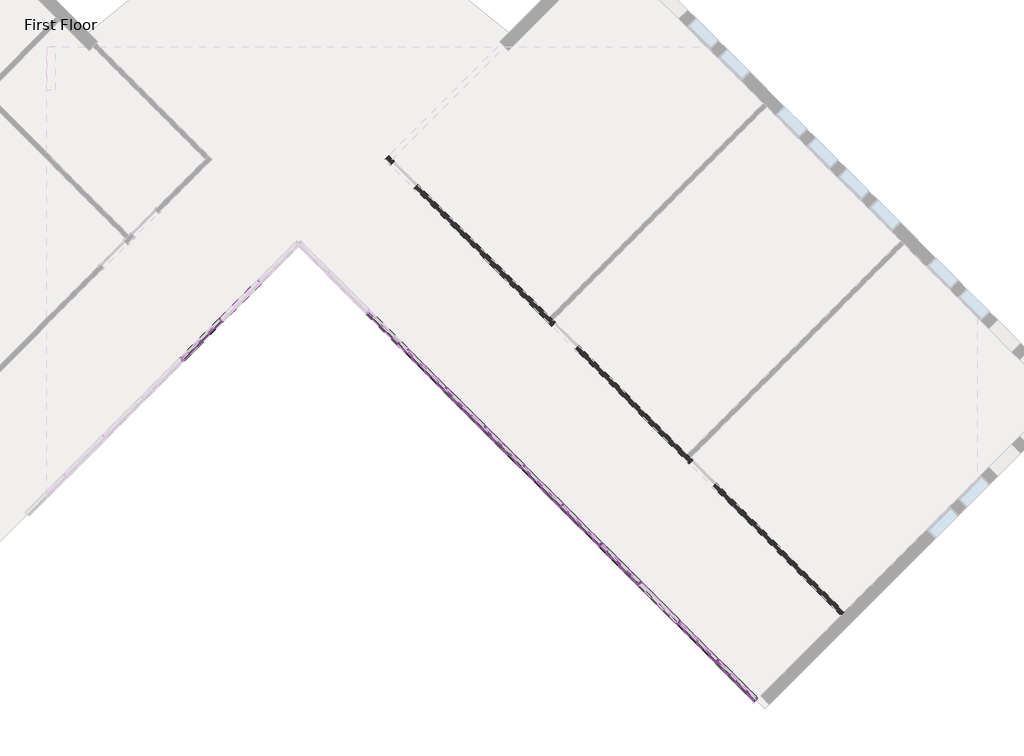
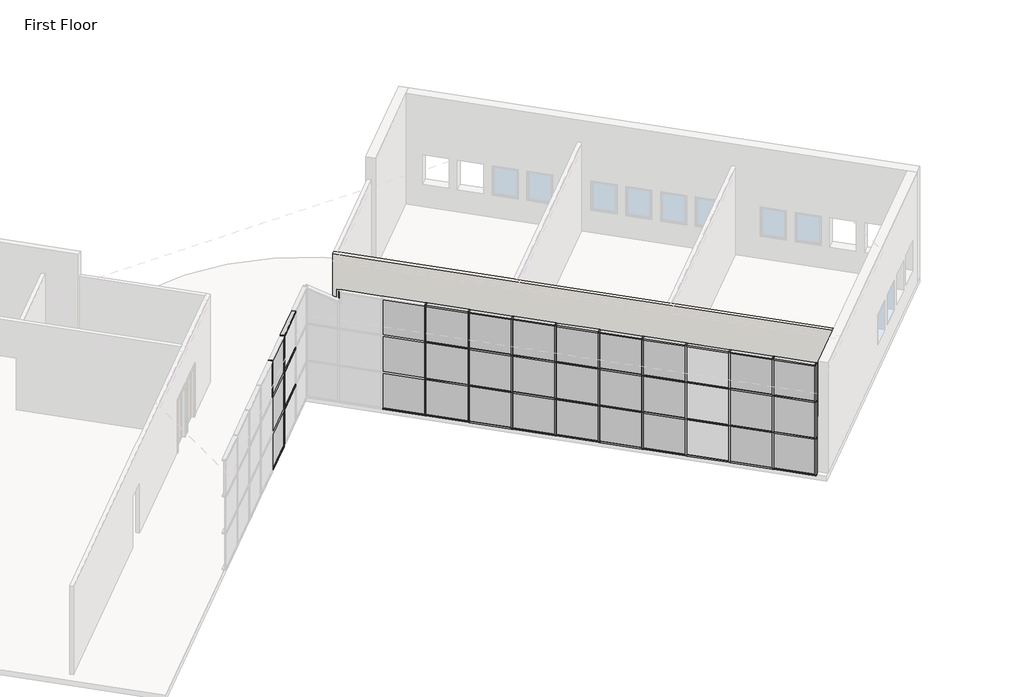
# One storey, part 2 of 4: 75 members, 30 plates, 1 wall.
"""IFC4 building model written with IfcOpenShell, lengths in millimetres."""

from ifc_helpers import new_model, si_unit, origin, place, context, project, spatial, faceted_brep, transform, mapped, element, save
from components import rectangular_mullion_50_x_150mm_20f04808, rectangular_mullion_50_x_150mm_40297ad3, rectangular_mullion_50_x_150mm_25842354, rectangular_mullion_50_x_150mm_f494fff1, rectangular_mullion_50_x_150mm_5da8f88f, rectangular_mullion_50_x_150mm_4d330a12, system_panel_glazed_3c3c243d, system_panel_glazed_a417ca2b, system_panel_glazed_437d720c, system_panel_glazed_7c4ff273, system_panel_solid_49e066f7, system_panel_solid_a570f427

model = new_model("IFC4")

# Units and contexts
model_context = context("Model", 3, world=origin())
ifc_project = project(units=[si_unit("LENGTHUNIT", "METRE", prefix="MILLI")], contexts=[model_context])

# Site, building, storey
site = spatial("IfcSite", under=ifc_project)
building = spatial("IfcBuilding", under=site)
storey = spatial("IfcBuildingStorey", under=building, Name="First Floor", Elevation=0.0)

# Members
placement = place(None, origin())
rectangular_mullion_50_x_150mm_shape = rectangular_mullion_50_x_150mm_20f04808(model_context)
element("IfcMember", 1, ObjectType="Rectangular Mullion : 50 x 150mm", at=placement, inside=storey, context=model_context, shape_type="MappedRepresentation", body=[
    mapped(rectangular_mullion_50_x_150mm_shape, transform((11047.480406, -10654.0737858, 0.0), x_axis=(0.0, 0.0, -1.0), y_axis=(0.7071067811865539, 0.7071067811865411, 0.0), z_axis=(0.7071067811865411, -0.7071067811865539, 0.0))),
])
rectangular_mullion_50_x_150mm_2_shape = rectangular_mullion_50_x_150mm_40297ad3(model_context)
element("IfcMember", 2, ObjectType="Rectangular Mullion : 50 x 150mm", at=placement, inside=storey, context=model_context, shape_type="MappedRepresentation", body=[
    mapped(rectangular_mullion_50_x_150mm_2_shape, transform((-3756.5071652, -160.6091532, 0.0), x_axis=(-0.7071067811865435, -0.7071067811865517, 0.0), y_axis=(-0.7071067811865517, 0.7071067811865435, 0.0), z_axis=(0.0, 0.0, -1.0))),
])
element("IfcMember", 3, ObjectType="Rectangular Mullion : 50 x 150mm", at=placement, inside=storey, context=model_context, shape_type="MappedRepresentation", body=[
    mapped(rectangular_mullion_50_x_150mm_2_shape, transform((10005.2050103, -9611.7983901, 0.0), x_axis=(-0.7071067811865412, 0.7071067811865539, 0.0), y_axis=(0.7071067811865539, 0.7071067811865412, 0.0), z_axis=(0.0, 0.0, -1.0))),
])
element("IfcMember", 4, ObjectType="Rectangular Mullion : 50 x 150mm", at=placement, inside=storey, context=model_context, shape_type="MappedRepresentation", body=[
    mapped(rectangular_mullion_50_x_150mm_2_shape, transform((8927.5742757, -8534.1676556, 0.0), x_axis=(-0.7071067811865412, 0.7071067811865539, 0.0), y_axis=(0.7071067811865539, 0.7071067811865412, 0.0), z_axis=(0.0, 0.0, -1.0))),
])
element("IfcMember", 5, ObjectType="Rectangular Mullion : 50 x 150mm", at=placement, inside=storey, context=model_context, shape_type="MappedRepresentation", body=[
    mapped(rectangular_mullion_50_x_150mm_2_shape, transform((7849.9435412, -7456.536921, 0.0), x_axis=(-0.7071067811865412, 0.7071067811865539, 0.0), y_axis=(0.7071067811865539, 0.7071067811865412, 0.0), z_axis=(0.0, 0.0, -1.0))),
])
element("IfcMember", 6, ObjectType="Rectangular Mullion : 50 x 150mm", at=placement, inside=storey, context=model_context, shape_type="MappedRepresentation", body=[
    mapped(rectangular_mullion_50_x_150mm_2_shape, transform((6772.3128067, -6378.9061865, 0.0), x_axis=(-0.7071067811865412, 0.7071067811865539, 0.0), y_axis=(0.7071067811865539, 0.7071067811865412, 0.0), z_axis=(0.0, 0.0, -1.0))),
])
element("IfcMember", 7, ObjectType="Rectangular Mullion : 50 x 150mm", at=placement, inside=storey, context=model_context, shape_type="MappedRepresentation", body=[
    mapped(rectangular_mullion_50_x_150mm_2_shape, transform((5694.6820722, -5301.275452, 0.0), x_axis=(-0.7071067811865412, 0.7071067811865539, 0.0), y_axis=(0.7071067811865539, 0.7071067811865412, 0.0), z_axis=(0.0, 0.0, -1.0))),
])
element("IfcMember", 8, ObjectType="Rectangular Mullion : 50 x 150mm", at=placement, inside=storey, context=model_context, shape_type="MappedRepresentation", body=[
    mapped(rectangular_mullion_50_x_150mm_2_shape, transform((4617.0513376, -4223.6447175, 0.0), x_axis=(-0.7071067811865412, 0.7071067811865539, 0.0), y_axis=(0.7071067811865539, 0.7071067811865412, 0.0), z_axis=(0.0, 0.0, -1.0))),
])
element("IfcMember", 9, ObjectType="Rectangular Mullion : 50 x 150mm", at=placement, inside=storey, context=model_context, shape_type="MappedRepresentation", body=[
    mapped(rectangular_mullion_50_x_150mm_2_shape, transform((3539.4206031, -3146.0139829, 0.0), x_axis=(-0.7071067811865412, 0.7071067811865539, 0.0), y_axis=(0.7071067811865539, 0.7071067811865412, 0.0), z_axis=(0.0, 0.0, -1.0))),
])
element("IfcMember", 10, ObjectType="Rectangular Mullion : 50 x 150mm", at=placement, inside=storey, context=model_context, shape_type="MappedRepresentation", body=[
    mapped(rectangular_mullion_50_x_150mm_2_shape, transform((2461.7898686, -2068.3832484, 0.0), x_axis=(-0.7071067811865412, 0.7071067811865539, 0.0), y_axis=(0.7071067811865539, 0.7071067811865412, 0.0), z_axis=(0.0, 0.0, -1.0))),
])
element("IfcMember", 11, ObjectType="Rectangular Mullion : 50 x 150mm", at=placement, inside=storey, context=model_context, shape_type="MappedRepresentation", body=[
    mapped(rectangular_mullion_50_x_150mm_2_shape, transform((1384.159134, -990.7525139, 0.0), x_axis=(-0.7071067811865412, 0.7071067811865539, 0.0), y_axis=(0.7071067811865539, 0.7071067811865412, 0.0), z_axis=(0.0, 0.0, -1.0))),
])
rectangular_mullion_50_x_150mm_3_shape = rectangular_mullion_50_x_150mm_25842354(model_context)
element("IfcMember", 12, ObjectType="Rectangular Mullion : 50 x 150mm", at=placement, inside=storey, context=model_context, shape_type="MappedRepresentation", body=[
    mapped(rectangular_mullion_50_x_150mm_3_shape, transform((10022.8826798, -9629.4760596, 1524.0), x_axis=(0.0, 0.0, 1.0), y_axis=(0.7071067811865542, 0.7071067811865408, 0.0), z_axis=(-0.7071067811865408, 0.7071067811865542, 0.0))),
])
element("IfcMember", 13, ObjectType="Rectangular Mullion : 50 x 150mm", at=placement, inside=storey, context=model_context, shape_type="MappedRepresentation", body=[
    mapped(rectangular_mullion_50_x_150mm_3_shape, transform((10022.8826798, -9629.4760596, 3048.0), x_axis=(0.0, 0.0, 1.0), y_axis=(0.7071067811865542, 0.7071067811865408, 0.0), z_axis=(-0.7071067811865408, 0.7071067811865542, 0.0))),
])
rectangular_mullion_50_x_150mm_4_shape = rectangular_mullion_50_x_150mm_f494fff1(model_context)
element("IfcMember", 14, ObjectType="Rectangular Mullion : 50 x 150mm", at=placement, inside=storey, context=model_context, shape_type="MappedRepresentation", body=[
    mapped(rectangular_mullion_50_x_150mm_4_shape, transform((-3738.8294957, -142.9314837, 1524.0), x_axis=(0.0, 0.0, 1.0), y_axis=(-0.7071067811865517, 0.7071067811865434, 0.0), z_axis=(-0.7071067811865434, -0.7071067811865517, 0.0))),
])
element("IfcMember", 15, ObjectType="Rectangular Mullion : 50 x 150mm", at=placement, inside=storey, context=model_context, shape_type="MappedRepresentation", body=[
    mapped(rectangular_mullion_50_x_150mm_4_shape, transform((-3738.8294957, -142.9314837, 3048.0), x_axis=(0.0, 0.0, 1.0), y_axis=(-0.7071067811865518, 0.7071067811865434, 0.0), z_axis=(-0.7071067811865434, -0.7071067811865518, 0.0))),
])
element("IfcMember", 16, ObjectType="Rectangular Mullion : 50 x 150mm", at=placement, inside=storey, context=model_context, shape_type="MappedRepresentation", body=[
    mapped(rectangular_mullion_50_x_150mm_4_shape, transform((8945.2519453, -8551.8453251, 1524.0), x_axis=(0.0, 0.0, 1.0), y_axis=(0.7071067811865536, 0.7071067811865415, 0.0), z_axis=(-0.7071067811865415, 0.7071067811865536, 0.0))),
])
element("IfcMember", 17, ObjectType="Rectangular Mullion : 50 x 150mm", at=placement, inside=storey, context=model_context, shape_type="MappedRepresentation", body=[
    mapped(rectangular_mullion_50_x_150mm_4_shape, transform((7867.6212107, -7474.2145906, 1524.0), x_axis=(0.0, 0.0, 1.0), y_axis=(0.7071067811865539, 0.7071067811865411, 0.0), z_axis=(-0.7071067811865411, 0.7071067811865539, 0.0))),
])
element("IfcMember", 18, ObjectType="Rectangular Mullion : 50 x 150mm", at=placement, inside=storey, context=model_context, shape_type="MappedRepresentation", body=[
    mapped(rectangular_mullion_50_x_150mm_4_shape, transform((6789.9904762, -6396.5838561, 1524.0), x_axis=(0.0, 0.0, 1.0), y_axis=(0.7071067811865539, 0.7071067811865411, 0.0), z_axis=(-0.7071067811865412, 0.707106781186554, 0.0))),
])
element("IfcMember", 19, ObjectType="Rectangular Mullion : 50 x 150mm", at=placement, inside=storey, context=model_context, shape_type="MappedRepresentation", body=[
    mapped(rectangular_mullion_50_x_150mm_4_shape, transform((5712.3597417, -5318.9531215, 1524.0), x_axis=(0.0, 0.0, 1.0), y_axis=(0.7071067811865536, 0.7071067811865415, 0.0), z_axis=(-0.7071067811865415, 0.7071067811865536, 0.0))),
])
element("IfcMember", 20, ObjectType="Rectangular Mullion : 50 x 150mm", at=placement, inside=storey, context=model_context, shape_type="MappedRepresentation", body=[
    mapped(rectangular_mullion_50_x_150mm_4_shape, transform((4634.7290072, -4241.322387, 1524.0), x_axis=(0.0, 0.0, 1.0), y_axis=(0.7071067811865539, 0.7071067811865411, 0.0), z_axis=(-0.7071067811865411, 0.7071067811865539, 0.0))),
])
element("IfcMember", 21, ObjectType="Rectangular Mullion : 50 x 150mm", at=placement, inside=storey, context=model_context, shape_type="MappedRepresentation", body=[
    mapped(rectangular_mullion_50_x_150mm_4_shape, transform((3557.0982726, -3163.6916525, 1524.0), x_axis=(0.0, 0.0, 1.0), y_axis=(0.7071067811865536, 0.7071067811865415, 0.0), z_axis=(-0.7071067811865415, 0.7071067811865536, 0.0))),
])
element("IfcMember", 22, ObjectType="Rectangular Mullion : 50 x 150mm", at=placement, inside=storey, context=model_context, shape_type="MappedRepresentation", body=[
    mapped(rectangular_mullion_50_x_150mm_4_shape, transform((2479.4675381, -2086.0609179, 1524.0), x_axis=(0.0, 0.0, 1.0), y_axis=(0.7071067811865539, 0.7071067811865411, 0.0), z_axis=(-0.7071067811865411, 0.7071067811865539, 0.0))),
])
element("IfcMember", 23, ObjectType="Rectangular Mullion : 50 x 150mm", at=placement, inside=storey, context=model_context, shape_type="MappedRepresentation", body=[
    mapped(rectangular_mullion_50_x_150mm_4_shape, transform((1401.8368036, -1008.4301834, 1524.0), x_axis=(0.0, 0.0, 1.0), y_axis=(0.7071067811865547, 0.7071067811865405, 0.0), z_axis=(-0.7071067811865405, 0.7071067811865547, 0.0))),
])
element("IfcMember", 24, ObjectType="Rectangular Mullion : 50 x 150mm", at=placement, inside=storey, context=model_context, shape_type="MappedRepresentation", body=[
    mapped(rectangular_mullion_50_x_150mm_4_shape, transform((8945.2519453, -8551.8453251, 3048.0), x_axis=(0.0, 0.0, 1.0), y_axis=(0.7071067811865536, 0.7071067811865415, 0.0), z_axis=(-0.7071067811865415, 0.7071067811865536, 0.0))),
])
element("IfcMember", 25, ObjectType="Rectangular Mullion : 50 x 150mm", at=placement, inside=storey, context=model_context, shape_type="MappedRepresentation", body=[
    mapped(rectangular_mullion_50_x_150mm_4_shape, transform((7867.6212107, -7474.2145906, 3048.0), x_axis=(0.0, 0.0, 1.0), y_axis=(0.7071067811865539, 0.7071067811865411, 0.0), z_axis=(-0.7071067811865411, 0.7071067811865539, 0.0))),
])
element("IfcMember", 26, ObjectType="Rectangular Mullion : 50 x 150mm", at=placement, inside=storey, context=model_context, shape_type="MappedRepresentation", body=[
    mapped(rectangular_mullion_50_x_150mm_4_shape, transform((6789.9904762, -6396.5838561, 3048.0), x_axis=(0.0, 0.0, 1.0), y_axis=(0.7071067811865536, 0.7071067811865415, 0.0), z_axis=(-0.7071067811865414, 0.7071067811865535, 0.0))),
])
element("IfcMember", 27, ObjectType="Rectangular Mullion : 50 x 150mm", at=placement, inside=storey, context=model_context, shape_type="MappedRepresentation", body=[
    mapped(rectangular_mullion_50_x_150mm_4_shape, transform((5712.3597417, -5318.9531215, 3048.0), x_axis=(0.0, 0.0, 1.0), y_axis=(0.7071067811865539, 0.7071067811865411, 0.0), z_axis=(-0.7071067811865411, 0.7071067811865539, 0.0))),
])
element("IfcMember", 28, ObjectType="Rectangular Mullion : 50 x 150mm", at=placement, inside=storey, context=model_context, shape_type="MappedRepresentation", body=[
    mapped(rectangular_mullion_50_x_150mm_4_shape, transform((4634.7290072, -4241.322387, 3048.0), x_axis=(0.0, 0.0, 1.0), y_axis=(0.7071067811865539, 0.7071067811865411, 0.0), z_axis=(-0.7071067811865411, 0.7071067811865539, 0.0))),
])
element("IfcMember", 29, ObjectType="Rectangular Mullion : 50 x 150mm", at=placement, inside=storey, context=model_context, shape_type="MappedRepresentation", body=[
    mapped(rectangular_mullion_50_x_150mm_4_shape, transform((3557.0982726, -3163.6916525, 3048.0), x_axis=(0.0, 0.0, 1.0), y_axis=(0.7071067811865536, 0.7071067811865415, 0.0), z_axis=(-0.7071067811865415, 0.7071067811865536, 0.0))),
])
element("IfcMember", 30, ObjectType="Rectangular Mullion : 50 x 150mm", at=placement, inside=storey, context=model_context, shape_type="MappedRepresentation", body=[
    mapped(rectangular_mullion_50_x_150mm_4_shape, transform((2479.4675381, -2086.0609179, 3048.0), x_axis=(0.0, 0.0, 1.0), y_axis=(0.7071067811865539, 0.7071067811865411, 0.0), z_axis=(-0.7071067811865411, 0.7071067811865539, 0.0))),
])
element("IfcMember", 31, ObjectType="Rectangular Mullion : 50 x 150mm", at=placement, inside=storey, context=model_context, shape_type="MappedRepresentation", body=[
    mapped(rectangular_mullion_50_x_150mm_4_shape, transform((1401.8368036, -1008.4301834, 3048.0), x_axis=(0.0, 0.0, 1.0), y_axis=(0.7071067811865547, 0.7071067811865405, 0.0), z_axis=(-0.7071067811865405, 0.7071067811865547, 0.0))),
])
rectangular_mullion_50_x_150mm_5_shape = rectangular_mullion_50_x_150mm_5da8f88f(model_context)
element("IfcMember", 32, ObjectType="Rectangular Mullion : 50 x 150mm", at=placement, inside=storey, context=model_context, shape_type="MappedRepresentation", body=[
    mapped(rectangular_mullion_50_x_150mm_5_shape, transform((-3774.1848347, -178.2868227, 0.0), x_axis=(0.0, 0.0, -1.0), y_axis=(-0.7071067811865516, 0.7071067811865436, 0.0), z_axis=(0.7071067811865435, 0.7071067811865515, 0.0))),
])
element("IfcMember", 33, ObjectType="Rectangular Mullion : 50 x 150mm", at=placement, inside=storey, context=model_context, shape_type="MappedRepresentation", body=[
    mapped(rectangular_mullion_50_x_150mm_5_shape, transform((9987.5273407, -9594.1207206, 0.0), x_axis=(0.0, 0.0, -1.0), y_axis=(0.7071067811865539, 0.7071067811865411, 0.0), z_axis=(0.7071067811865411, -0.7071067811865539, 0.0))),
])
element("IfcMember", 34, ObjectType="Rectangular Mullion : 50 x 150mm", at=placement, inside=storey, context=model_context, shape_type="MappedRepresentation", body=[
    mapped(rectangular_mullion_50_x_150mm_5_shape, transform((8909.8966062, -8516.489986, 0.0), x_axis=(0.0, 0.0, -1.0), y_axis=(0.7071067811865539, 0.7071067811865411, 0.0), z_axis=(0.7071067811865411, -0.7071067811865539, 0.0))),
])
element("IfcMember", 35, ObjectType="Rectangular Mullion : 50 x 150mm", at=placement, inside=storey, context=model_context, shape_type="MappedRepresentation", body=[
    mapped(rectangular_mullion_50_x_150mm_5_shape, transform((7832.2658717, -7438.8592515, 0.0), x_axis=(0.0, 0.0, -1.0), y_axis=(0.7071067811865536, 0.7071067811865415, 0.0), z_axis=(0.7071067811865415, -0.7071067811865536, 0.0))),
])
element("IfcMember", 36, ObjectType="Rectangular Mullion : 50 x 150mm", at=placement, inside=storey, context=model_context, shape_type="MappedRepresentation", body=[
    mapped(rectangular_mullion_50_x_150mm_5_shape, transform((6754.6351372, -6361.228517, 0.0), x_axis=(0.0, 0.0, -1.0), y_axis=(0.7071067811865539, 0.7071067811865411, 0.0), z_axis=(0.7071067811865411, -0.7071067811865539, 0.0))),
])
element("IfcMember", 37, ObjectType="Rectangular Mullion : 50 x 150mm", at=placement, inside=storey, context=model_context, shape_type="MappedRepresentation", body=[
    mapped(rectangular_mullion_50_x_150mm_5_shape, transform((5677.0044026, -5283.5977825, 0.0), x_axis=(0.0, 0.0, -1.0), y_axis=(0.7071067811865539, 0.7071067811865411, 0.0), z_axis=(0.7071067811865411, -0.7071067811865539, 0.0))),
])
element("IfcMember", 38, ObjectType="Rectangular Mullion : 50 x 150mm", at=placement, inside=storey, context=model_context, shape_type="MappedRepresentation", body=[
    mapped(rectangular_mullion_50_x_150mm_5_shape, transform((4599.3736681, -4205.9670479, 0.0), x_axis=(0.0, 0.0, -1.0), y_axis=(0.7071067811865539, 0.7071067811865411, 0.0), z_axis=(0.7071067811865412, -0.707106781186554, 0.0))),
])
element("IfcMember", 39, ObjectType="Rectangular Mullion : 50 x 150mm", at=placement, inside=storey, context=model_context, shape_type="MappedRepresentation", body=[
    mapped(rectangular_mullion_50_x_150mm_5_shape, transform((3521.7429336, -3128.3363134, 0.0), x_axis=(0.0, 0.0, -1.0), y_axis=(0.7071067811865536, 0.7071067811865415, 0.0), z_axis=(0.7071067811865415, -0.7071067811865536, 0.0))),
])
element("IfcMember", 40, ObjectType="Rectangular Mullion : 50 x 150mm", at=placement, inside=storey, context=model_context, shape_type="MappedRepresentation", body=[
    mapped(rectangular_mullion_50_x_150mm_5_shape, transform((2444.112199, -2050.7055789, 0.0), x_axis=(0.0, 0.0, -1.0), y_axis=(0.7071067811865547, 0.7071067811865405, 0.0), z_axis=(0.7071067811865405, -0.7071067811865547, 0.0))),
])
element("IfcMember", 41, ObjectType="Rectangular Mullion : 50 x 150mm", at=placement, inside=storey, context=model_context, shape_type="MappedRepresentation", body=[
    mapped(rectangular_mullion_50_x_150mm_5_shape, transform((1366.4814645, -973.0748443, 0.0), x_axis=(0.0, 0.0, -1.0), y_axis=(0.7071067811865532, 0.7071067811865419, 0.0), z_axis=(0.7071067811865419, -0.7071067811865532, 0.0))),
])
element("IfcMember", 42, ObjectType="Rectangular Mullion : 50 x 150mm", at=placement, inside=storey, context=model_context, shape_type="MappedRepresentation", body=[
    mapped(rectangular_mullion_50_x_150mm_shape, transform((10022.8826798, -9629.4760596, 4572.0), x_axis=(0.0, 0.0, 1.0), y_axis=(0.7071067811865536, 0.7071067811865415, 0.0), z_axis=(-0.7071067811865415, 0.7071067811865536, 0.0))),
])
element("IfcMember", 43, ObjectType="Rectangular Mullion : 50 x 150mm", at=placement, inside=storey, context=model_context, shape_type="MappedRepresentation", body=[
    mapped(rectangular_mullion_50_x_150mm_5_shape, transform((-3738.8294957, -142.9314837, 4572.0), x_axis=(0.0, 0.0, 1.0), y_axis=(-0.7071067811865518, 0.7071067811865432, 0.0), z_axis=(-0.7071067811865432, -0.7071067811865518, 0.0))),
])
element("IfcMember", 44, ObjectType="Rectangular Mullion : 50 x 150mm", at=placement, inside=storey, context=model_context, shape_type="MappedRepresentation", body=[
    mapped(rectangular_mullion_50_x_150mm_5_shape, transform((8945.2519453, -8551.8453251, 4572.0), x_axis=(0.0, 0.0, 1.0), y_axis=(0.7071067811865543, 0.7071067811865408, 0.0), z_axis=(-0.7071067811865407, 0.7071067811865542, 0.0))),
])
element("IfcMember", 45, ObjectType="Rectangular Mullion : 50 x 150mm", at=placement, inside=storey, context=model_context, shape_type="MappedRepresentation", body=[
    mapped(rectangular_mullion_50_x_150mm_5_shape, transform((7867.6212107, -7474.2145906, 4572.0), x_axis=(0.0, 0.0, 1.0), y_axis=(0.7071067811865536, 0.7071067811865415, 0.0), z_axis=(-0.7071067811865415, 0.7071067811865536, 0.0))),
])
element("IfcMember", 46, ObjectType="Rectangular Mullion : 50 x 150mm", at=placement, inside=storey, context=model_context, shape_type="MappedRepresentation", body=[
    mapped(rectangular_mullion_50_x_150mm_5_shape, transform((6789.9904762, -6396.5838561, 4572.0), x_axis=(0.0, 0.0, 1.0), y_axis=(0.7071067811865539, 0.7071067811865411, 0.0), z_axis=(-0.7071067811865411, 0.7071067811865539, 0.0))),
])
element("IfcMember", 47, ObjectType="Rectangular Mullion : 50 x 150mm", at=placement, inside=storey, context=model_context, shape_type="MappedRepresentation", body=[
    mapped(rectangular_mullion_50_x_150mm_5_shape, transform((5712.3597417, -5318.9531215, 4572.0), x_axis=(0.0, 0.0, 1.0), y_axis=(0.7071067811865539, 0.7071067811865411, 0.0), z_axis=(-0.7071067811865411, 0.7071067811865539, 0.0))),
])
element("IfcMember", 48, ObjectType="Rectangular Mullion : 50 x 150mm", at=placement, inside=storey, context=model_context, shape_type="MappedRepresentation", body=[
    mapped(rectangular_mullion_50_x_150mm_5_shape, transform((4634.7290072, -4241.322387, 4572.0), x_axis=(0.0, 0.0, 1.0), y_axis=(0.7071067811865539, 0.7071067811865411, 0.0), z_axis=(-0.7071067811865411, 0.7071067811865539, 0.0))),
])
element("IfcMember", 49, ObjectType="Rectangular Mullion : 50 x 150mm", at=placement, inside=storey, context=model_context, shape_type="MappedRepresentation", body=[
    mapped(rectangular_mullion_50_x_150mm_5_shape, transform((3557.0982726, -3163.6916525, 4572.0), x_axis=(0.0, 0.0, 1.0), y_axis=(0.7071067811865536, 0.7071067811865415, 0.0), z_axis=(-0.7071067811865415, 0.7071067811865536, 0.0))),
])
element("IfcMember", 50, ObjectType="Rectangular Mullion : 50 x 150mm", at=placement, inside=storey, context=model_context, shape_type="MappedRepresentation", body=[
    mapped(rectangular_mullion_50_x_150mm_5_shape, transform((2479.4675381, -2086.0609179, 4572.0), x_axis=(0.0, 0.0, 1.0), y_axis=(0.7071067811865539, 0.7071067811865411, 0.0), z_axis=(-0.7071067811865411, 0.7071067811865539, 0.0))),
])
element("IfcMember", 51, ObjectType="Rectangular Mullion : 50 x 150mm", at=placement, inside=storey, context=model_context, shape_type="MappedRepresentation", body=[
    mapped(rectangular_mullion_50_x_150mm_5_shape, transform((1401.8368036, -1008.4301834, 4572.0), x_axis=(0.0, 0.0, 1.0), y_axis=(0.7071067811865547, 0.7071067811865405, 0.0), z_axis=(-0.7071067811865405, 0.7071067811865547, 0.0))),
])
element("IfcMember", 52, ObjectType="Rectangular Mullion : 50 x 150mm", at=placement, inside=storey, context=model_context, shape_type="MappedRepresentation", body=[
    mapped(rectangular_mullion_50_x_150mm_2_shape, transform((-3756.5071652, -160.6091532, 1524.0), x_axis=(-0.7071067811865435, -0.7071067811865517, 0.0), y_axis=(-0.7071067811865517, 0.7071067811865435, 0.0), z_axis=(0.0, 0.0, -1.0))),
])
element("IfcMember", 53, ObjectType="Rectangular Mullion : 50 x 150mm", at=placement, inside=storey, context=model_context, shape_type="MappedRepresentation", body=[
    mapped(rectangular_mullion_50_x_150mm_2_shape, transform((10005.2050103, -9611.7983901, 1524.0), x_axis=(-0.7071067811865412, 0.7071067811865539, 0.0), y_axis=(0.7071067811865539, 0.7071067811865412, 0.0), z_axis=(0.0, 0.0, -1.0))),
])
element("IfcMember", 54, ObjectType="Rectangular Mullion : 50 x 150mm", at=placement, inside=storey, context=model_context, shape_type="MappedRepresentation", body=[
    mapped(rectangular_mullion_50_x_150mm_2_shape, transform((8927.5742757, -8534.1676556, 1524.0), x_axis=(-0.7071067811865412, 0.7071067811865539, 0.0), y_axis=(0.7071067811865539, 0.7071067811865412, 0.0), z_axis=(0.0, 0.0, -1.0))),
])
element("IfcMember", 55, ObjectType="Rectangular Mullion : 50 x 150mm", at=placement, inside=storey, context=model_context, shape_type="MappedRepresentation", body=[
    mapped(rectangular_mullion_50_x_150mm_2_shape, transform((7849.9435412, -7456.536921, 1524.0), x_axis=(-0.7071067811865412, 0.7071067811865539, 0.0), y_axis=(0.7071067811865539, 0.7071067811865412, 0.0), z_axis=(0.0, 0.0, -1.0))),
])
element("IfcMember", 56, ObjectType="Rectangular Mullion : 50 x 150mm", at=placement, inside=storey, context=model_context, shape_type="MappedRepresentation", body=[
    mapped(rectangular_mullion_50_x_150mm_2_shape, transform((6772.3128067, -6378.9061865, 1524.0), x_axis=(-0.7071067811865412, 0.7071067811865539, 0.0), y_axis=(0.7071067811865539, 0.7071067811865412, 0.0), z_axis=(0.0, 0.0, -1.0))),
])
element("IfcMember", 57, ObjectType="Rectangular Mullion : 50 x 150mm", at=placement, inside=storey, context=model_context, shape_type="MappedRepresentation", body=[
    mapped(rectangular_mullion_50_x_150mm_2_shape, transform((5694.6820722, -5301.275452, 1524.0), x_axis=(-0.7071067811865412, 0.7071067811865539, 0.0), y_axis=(0.7071067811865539, 0.7071067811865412, 0.0), z_axis=(0.0, 0.0, -1.0))),
])
element("IfcMember", 58, ObjectType="Rectangular Mullion : 50 x 150mm", at=placement, inside=storey, context=model_context, shape_type="MappedRepresentation", body=[
    mapped(rectangular_mullion_50_x_150mm_2_shape, transform((4617.0513376, -4223.6447175, 1524.0), x_axis=(-0.7071067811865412, 0.7071067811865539, 0.0), y_axis=(0.7071067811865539, 0.7071067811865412, 0.0), z_axis=(0.0, 0.0, -1.0))),
])
element("IfcMember", 59, ObjectType="Rectangular Mullion : 50 x 150mm", at=placement, inside=storey, context=model_context, shape_type="MappedRepresentation", body=[
    mapped(rectangular_mullion_50_x_150mm_2_shape, transform((3539.4206031, -3146.0139829, 1524.0), x_axis=(-0.7071067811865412, 0.7071067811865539, 0.0), y_axis=(0.7071067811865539, 0.7071067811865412, 0.0), z_axis=(0.0, 0.0, -1.0))),
])
element("IfcMember", 60, ObjectType="Rectangular Mullion : 50 x 150mm", at=placement, inside=storey, context=model_context, shape_type="MappedRepresentation", body=[
    mapped(rectangular_mullion_50_x_150mm_2_shape, transform((2461.7898686, -2068.3832484, 1524.0), x_axis=(-0.7071067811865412, 0.7071067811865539, 0.0), y_axis=(0.7071067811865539, 0.7071067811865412, 0.0), z_axis=(0.0, 0.0, -1.0))),
])
element("IfcMember", 61, ObjectType="Rectangular Mullion : 50 x 150mm", at=placement, inside=storey, context=model_context, shape_type="MappedRepresentation", body=[
    mapped(rectangular_mullion_50_x_150mm_2_shape, transform((1384.159134, -990.7525139, 1524.0), x_axis=(-0.7071067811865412, 0.7071067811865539, 0.0), y_axis=(0.7071067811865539, 0.7071067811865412, 0.0), z_axis=(0.0, 0.0, -1.0))),
])
element("IfcMember", 62, ObjectType="Rectangular Mullion : 50 x 150mm", at=placement, inside=storey, context=model_context, shape_type="MappedRepresentation", body=[
    mapped(rectangular_mullion_50_x_150mm_2_shape, transform((-3756.5071652, -160.6091532, 3048.0), x_axis=(-0.7071067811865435, -0.7071067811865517, 0.0), y_axis=(-0.7071067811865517, 0.7071067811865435, 0.0), z_axis=(0.0, 0.0, -1.0))),
])
element("IfcMember", 63, ObjectType="Rectangular Mullion : 50 x 150mm", at=placement, inside=storey, context=model_context, shape_type="MappedRepresentation", body=[
    mapped(rectangular_mullion_50_x_150mm_2_shape, transform((-4834.1378997, -1238.2398877, 3048.0), x_axis=(-0.7071067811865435, -0.7071067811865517, 0.0), y_axis=(-0.7071067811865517, 0.7071067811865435, 0.0), z_axis=(0.0, 0.0, -1.0))),
])
element("IfcMember", 64, ObjectType="Rectangular Mullion : 50 x 150mm", at=placement, inside=storey, context=model_context, shape_type="MappedRepresentation", body=[
    mapped(rectangular_mullion_50_x_150mm_2_shape, transform((10005.2050103, -9611.7983901, 3048.0), x_axis=(-0.7071067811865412, 0.7071067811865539, 0.0), y_axis=(0.7071067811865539, 0.7071067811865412, 0.0), z_axis=(0.0, 0.0, -1.0))),
])
element("IfcMember", 65, ObjectType="Rectangular Mullion : 50 x 150mm", at=placement, inside=storey, context=model_context, shape_type="MappedRepresentation", body=[
    mapped(rectangular_mullion_50_x_150mm_2_shape, transform((8927.5742757, -8534.1676556, 3048.0), x_axis=(-0.7071067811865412, 0.7071067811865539, 0.0), y_axis=(0.7071067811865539, 0.7071067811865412, 0.0), z_axis=(0.0, 0.0, -1.0))),
])
element("IfcMember", 66, ObjectType="Rectangular Mullion : 50 x 150mm", at=placement, inside=storey, context=model_context, shape_type="MappedRepresentation", body=[
    mapped(rectangular_mullion_50_x_150mm_2_shape, transform((7849.9435412, -7456.536921, 3048.0), x_axis=(-0.7071067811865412, 0.7071067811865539, 0.0), y_axis=(0.7071067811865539, 0.7071067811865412, 0.0), z_axis=(0.0, 0.0, -1.0))),
])
element("IfcMember", 67, ObjectType="Rectangular Mullion : 50 x 150mm", at=placement, inside=storey, context=model_context, shape_type="MappedRepresentation", body=[
    mapped(rectangular_mullion_50_x_150mm_2_shape, transform((6772.3128067, -6378.9061865, 3048.0), x_axis=(-0.7071067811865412, 0.7071067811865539, 0.0), y_axis=(0.7071067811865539, 0.7071067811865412, 0.0), z_axis=(0.0, 0.0, -1.0))),
])
element("IfcMember", 68, ObjectType="Rectangular Mullion : 50 x 150mm", at=placement, inside=storey, context=model_context, shape_type="MappedRepresentation", body=[
    mapped(rectangular_mullion_50_x_150mm_2_shape, transform((5694.6820722, -5301.275452, 3048.0), x_axis=(-0.7071067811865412, 0.7071067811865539, 0.0), y_axis=(0.7071067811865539, 0.7071067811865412, 0.0), z_axis=(0.0, 0.0, -1.0))),
])
element("IfcMember", 69, ObjectType="Rectangular Mullion : 50 x 150mm", at=placement, inside=storey, context=model_context, shape_type="MappedRepresentation", body=[
    mapped(rectangular_mullion_50_x_150mm_2_shape, transform((4617.0513376, -4223.6447175, 3048.0), x_axis=(-0.7071067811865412, 0.7071067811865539, 0.0), y_axis=(0.7071067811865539, 0.7071067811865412, 0.0), z_axis=(0.0, 0.0, -1.0))),
])
element("IfcMember", 70, ObjectType="Rectangular Mullion : 50 x 150mm", at=placement, inside=storey, context=model_context, shape_type="MappedRepresentation", body=[
    mapped(rectangular_mullion_50_x_150mm_2_shape, transform((3539.4206031, -3146.0139829, 3048.0), x_axis=(-0.7071067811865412, 0.7071067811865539, 0.0), y_axis=(0.7071067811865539, 0.7071067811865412, 0.0), z_axis=(0.0, 0.0, -1.0))),
])
element("IfcMember", 71, ObjectType="Rectangular Mullion : 50 x 150mm", at=placement, inside=storey, context=model_context, shape_type="MappedRepresentation", body=[
    mapped(rectangular_mullion_50_x_150mm_2_shape, transform((2461.7898686, -2068.3832484, 3048.0), x_axis=(-0.7071067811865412, 0.7071067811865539, 0.0), y_axis=(0.7071067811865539, 0.7071067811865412, 0.0), z_axis=(0.0, 0.0, -1.0))),
])
element("IfcMember", 72, ObjectType="Rectangular Mullion : 50 x 150mm", at=placement, inside=storey, context=model_context, shape_type="MappedRepresentation", body=[
    mapped(rectangular_mullion_50_x_150mm_2_shape, transform((1384.159134, -990.7525139, 3048.0), x_axis=(-0.7071067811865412, 0.7071067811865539, 0.0), y_axis=(0.7071067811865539, 0.7071067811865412, 0.0), z_axis=(0.0, 0.0, -1.0))),
])
rectangular_mullion_50_x_150mm_6_shape = rectangular_mullion_50_x_150mm_4d330a12(model_context)
element("IfcMember", 73, ObjectType="Rectangular Mullion : 50 x 150mm", at=placement, inside=storey, context=model_context, shape_type="MappedRepresentation", body=[
    mapped(rectangular_mullion_50_x_150mm_6_shape, transform((11082.835745, -10689.4291248, 4572.0), x_axis=(0.7071067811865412, -0.7071067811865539, 0.0), y_axis=(0.7071067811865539, 0.7071067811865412, 0.0), z_axis=(0.0, 0.0, 1.0))),
])
element("IfcMember", 74, ObjectType="Rectangular Mullion : 50 x 150mm", at=placement, inside=storey, context=model_context, shape_type="MappedRepresentation", body=[
    mapped(rectangular_mullion_50_x_150mm_6_shape, transform((11082.835745, -10689.4291248, 1524.0), x_axis=(0.7071067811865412, -0.7071067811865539, 0.0), y_axis=(0.7071067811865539, 0.7071067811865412, 0.0), z_axis=(0.0, 0.0, 1.0))),
])
element("IfcMember", 75, ObjectType="Rectangular Mullion : 50 x 150mm", at=placement, inside=storey, context=model_context, shape_type="MappedRepresentation", body=[
    mapped(rectangular_mullion_50_x_150mm_6_shape, transform((11082.835745, -10689.4291248, 3048.0), x_axis=(0.7071067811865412, -0.7071067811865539, 0.0), y_axis=(0.7071067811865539, 0.7071067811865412, 0.0), z_axis=(0.0, 0.0, 1.0))),
])

# Plates
system_panel_glazed_shape = system_panel_glazed_3c3c243d(model_context)
element("IfcPlate", 76, ObjectType="System Panel : Glazed", at=placement, inside=storey, context=model_context, shape_type="MappedRepresentation", body=[
    mapped(system_panel_glazed_shape, transform((10535.1815429, -10141.7749227, 50.0), x_axis=(-0.7071067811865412, 0.7071067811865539, 0.0), y_axis=(-0.7071067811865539, -0.7071067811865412, 0.0), z_axis=(0.0, 0.0, 1.0))),
])
system_panel_glazed_2_shape = system_panel_glazed_a417ca2b(model_context)
element("IfcPlate", 77, ObjectType="System Panel : Glazed", at=placement, inside=storey, context=model_context, shape_type="MappedRepresentation", body=[
    mapped(system_panel_glazed_2_shape, transform((9466.389643, -9072.9830228, 50.0), x_axis=(-0.7071067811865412, 0.7071067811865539, 0.0), y_axis=(-0.7071067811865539, -0.7071067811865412, 0.0), z_axis=(0.0, 0.0, 1.0))),
])
element("IfcPlate", 78, ObjectType="System Panel : Glazed", at=placement, inside=storey, context=model_context, shape_type="MappedRepresentation", body=[
    mapped(system_panel_glazed_2_shape, transform((7311.128174, -6917.7215538, 50.0), x_axis=(-0.7071067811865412, 0.7071067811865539, 0.0), y_axis=(-0.7071067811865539, -0.7071067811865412, 0.0), z_axis=(0.0, 0.0, 1.0))),
])
element("IfcPlate", 79, ObjectType="System Panel : Glazed", at=placement, inside=storey, context=model_context, shape_type="MappedRepresentation", body=[
    mapped(system_panel_glazed_2_shape, transform((6233.4974394, -5840.0908193, 50.0), x_axis=(-0.7071067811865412, 0.7071067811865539, 0.0), y_axis=(-0.7071067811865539, -0.7071067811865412, 0.0), z_axis=(0.0, 0.0, 1.0))),
])
element("IfcPlate", 80, ObjectType="System Panel : Glazed", at=placement, inside=storey, context=model_context, shape_type="MappedRepresentation", body=[
    mapped(system_panel_glazed_2_shape, transform((5155.8667049, -4762.4600847, 50.0), x_axis=(-0.7071067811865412, 0.7071067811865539, 0.0), y_axis=(-0.7071067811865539, -0.7071067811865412, 0.0), z_axis=(0.0, 0.0, 1.0))),
])
element("IfcPlate", 81, ObjectType="System Panel : Glazed", at=placement, inside=storey, context=model_context, shape_type="MappedRepresentation", body=[
    mapped(system_panel_glazed_2_shape, transform((4078.2359704, -3684.8293502, 50.0), x_axis=(-0.7071067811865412, 0.7071067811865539, 0.0), y_axis=(-0.7071067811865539, -0.7071067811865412, 0.0), z_axis=(0.0, 0.0, 1.0))),
])
element("IfcPlate", 82, ObjectType="System Panel : Glazed", at=placement, inside=storey, context=model_context, shape_type="MappedRepresentation", body=[
    mapped(system_panel_glazed_2_shape, transform((3000.6052358, -2607.1986157, 50.0), x_axis=(-0.7071067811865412, 0.7071067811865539, 0.0), y_axis=(-0.7071067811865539, -0.7071067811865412, 0.0), z_axis=(0.0, 0.0, 1.0))),
])
element("IfcPlate", 83, ObjectType="System Panel : Glazed", at=placement, inside=storey, context=model_context, shape_type="MappedRepresentation", body=[
    mapped(system_panel_glazed_2_shape, transform((1922.9745013, -1529.5678811, 50.0), x_axis=(-0.7071067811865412, 0.7071067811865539, 0.0), y_axis=(-0.7071067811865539, -0.7071067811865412, 0.0), z_axis=(0.0, 0.0, 1.0))),
])
element("IfcPlate", 84, ObjectType="System Panel : Glazed", at=placement, inside=storey, context=model_context, shape_type="MappedRepresentation", body=[
    mapped(system_panel_glazed_2_shape, transform((845.3437668, -451.9371466, 50.0), x_axis=(-0.7071067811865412, 0.7071067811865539, 0.0), y_axis=(-0.7071067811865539, -0.7071067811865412, 0.0), z_axis=(0.0, 0.0, 1.0))),
])
element("IfcPlate", 85, ObjectType="System Panel : Glazed", at=placement, inside=storey, context=model_context, shape_type="MappedRepresentation", body=[
    mapped(system_panel_glazed_2_shape, transform((-4295.3225324, -699.4245205, 50.0), x_axis=(-0.7071067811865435, -0.7071067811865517, 0.0), y_axis=(0.7071067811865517, -0.7071067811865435, 0.0), z_axis=(0.0, 0.0, 1.0))),
])
system_panel_glazed_3_shape = system_panel_glazed_437d720c(model_context)
element("IfcPlate", 86, ObjectType="System Panel : Glazed", at=placement, inside=storey, context=model_context, shape_type="MappedRepresentation", body=[
    mapped(system_panel_glazed_3_shape, transform((10535.1815429, -10141.7749227, 1549.0), x_axis=(-0.7071067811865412, 0.7071067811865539, 0.0), y_axis=(-0.7071067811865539, -0.7071067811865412, 0.0), z_axis=(0.0, 0.0, 1.0))),
])
system_panel_glazed_4_shape = system_panel_glazed_7c4ff273(model_context)
element("IfcPlate", 87, ObjectType="System Panel : Glazed", at=placement, inside=storey, context=model_context, shape_type="MappedRepresentation", body=[
    mapped(system_panel_glazed_4_shape, transform((9466.389643, -9072.9830228, 1549.0), x_axis=(-0.7071067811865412, 0.7071067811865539, 0.0), y_axis=(-0.7071067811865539, -0.7071067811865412, 0.0), z_axis=(0.0, 0.0, 1.0))),
])
element("IfcPlate", 88, ObjectType="System Panel : Glazed", at=placement, inside=storey, context=model_context, shape_type="MappedRepresentation", body=[
    mapped(system_panel_glazed_4_shape, transform((7311.128174, -6917.7215538, 1549.0), x_axis=(-0.7071067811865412, 0.7071067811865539, 0.0), y_axis=(-0.7071067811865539, -0.7071067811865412, 0.0), z_axis=(0.0, 0.0, 1.0))),
])
element("IfcPlate", 89, ObjectType="System Panel : Glazed", at=placement, inside=storey, context=model_context, shape_type="MappedRepresentation", body=[
    mapped(system_panel_glazed_4_shape, transform((6233.4974394, -5840.0908193, 1549.0), x_axis=(-0.7071067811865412, 0.7071067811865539, 0.0), y_axis=(-0.7071067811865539, -0.7071067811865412, 0.0), z_axis=(0.0, 0.0, 1.0))),
])
element("IfcPlate", 90, ObjectType="System Panel : Glazed", at=placement, inside=storey, context=model_context, shape_type="MappedRepresentation", body=[
    mapped(system_panel_glazed_4_shape, transform((5155.8667049, -4762.4600847, 1549.0), x_axis=(-0.7071067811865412, 0.7071067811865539, 0.0), y_axis=(-0.7071067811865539, -0.7071067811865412, 0.0), z_axis=(0.0, 0.0, 1.0))),
])
element("IfcPlate", 91, ObjectType="System Panel : Glazed", at=placement, inside=storey, context=model_context, shape_type="MappedRepresentation", body=[
    mapped(system_panel_glazed_4_shape, transform((4078.2359704, -3684.8293502, 1549.0), x_axis=(-0.7071067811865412, 0.7071067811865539, 0.0), y_axis=(-0.7071067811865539, -0.7071067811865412, 0.0), z_axis=(0.0, 0.0, 1.0))),
])
element("IfcPlate", 92, ObjectType="System Panel : Glazed", at=placement, inside=storey, context=model_context, shape_type="MappedRepresentation", body=[
    mapped(system_panel_glazed_4_shape, transform((3000.6052358, -2607.1986157, 1549.0), x_axis=(-0.7071067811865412, 0.7071067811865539, 0.0), y_axis=(-0.7071067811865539, -0.7071067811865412, 0.0), z_axis=(0.0, 0.0, 1.0))),
])
element("IfcPlate", 93, ObjectType="System Panel : Glazed", at=placement, inside=storey, context=model_context, shape_type="MappedRepresentation", body=[
    mapped(system_panel_glazed_4_shape, transform((1922.9745013, -1529.5678811, 1549.0), x_axis=(-0.7071067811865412, 0.7071067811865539, 0.0), y_axis=(-0.7071067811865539, -0.7071067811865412, 0.0), z_axis=(0.0, 0.0, 1.0))),
])
element("IfcPlate", 94, ObjectType="System Panel : Glazed", at=placement, inside=storey, context=model_context, shape_type="MappedRepresentation", body=[
    mapped(system_panel_glazed_4_shape, transform((845.3437668, -451.9371466, 1549.0), x_axis=(-0.7071067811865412, 0.7071067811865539, 0.0), y_axis=(-0.7071067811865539, -0.7071067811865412, 0.0), z_axis=(0.0, 0.0, 1.0))),
])
element("IfcPlate", 95, ObjectType="System Panel : Glazed", at=placement, inside=storey, context=model_context, shape_type="MappedRepresentation", body=[
    mapped(system_panel_glazed_4_shape, transform((-4295.3225324, -699.4245205, 1549.0), x_axis=(-0.7071067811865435, -0.7071067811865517, 0.0), y_axis=(0.7071067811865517, -0.7071067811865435, 0.0), z_axis=(0.0, 0.0, 1.0))),
])
system_panel_solid_shape = system_panel_solid_49e066f7(model_context)
element("IfcPlate", 96, ObjectType="System Panel : Solid", at=placement, inside=storey, context=model_context, shape_type="MappedRepresentation", body=[
    mapped(system_panel_solid_shape, transform((10535.1815429, -10141.7749227, 3073.0), x_axis=(-0.7071067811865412, 0.7071067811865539, 0.0), y_axis=(-0.7071067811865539, -0.7071067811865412, 0.0), z_axis=(0.0, 0.0, 1.0))),
])
system_panel_solid_2_shape = system_panel_solid_a570f427(model_context)
element("IfcPlate", 97, ObjectType="System Panel : Solid", at=placement, inside=storey, context=model_context, shape_type="MappedRepresentation", body=[
    mapped(system_panel_solid_2_shape, transform((9466.389643, -9072.9830228, 3073.0), x_axis=(-0.7071067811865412, 0.7071067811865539, 0.0), y_axis=(-0.7071067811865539, -0.7071067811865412, 0.0), z_axis=(0.0, 0.0, 1.0))),
])
element("IfcPlate", 98, ObjectType="System Panel : Solid", at=placement, inside=storey, context=model_context, shape_type="MappedRepresentation", body=[
    mapped(system_panel_solid_2_shape, transform((7311.128174, -6917.7215538, 3073.0), x_axis=(-0.7071067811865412, 0.7071067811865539, 0.0), y_axis=(-0.7071067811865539, -0.7071067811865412, 0.0), z_axis=(0.0, 0.0, 1.0))),
])
element("IfcPlate", 99, ObjectType="System Panel : Solid", at=placement, inside=storey, context=model_context, shape_type="MappedRepresentation", body=[
    mapped(system_panel_solid_2_shape, transform((6233.4974394, -5840.0908193, 3073.0), x_axis=(-0.7071067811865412, 0.7071067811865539, 0.0), y_axis=(-0.7071067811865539, -0.7071067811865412, 0.0), z_axis=(0.0, 0.0, 1.0))),
])
element("IfcPlate", 100, ObjectType="System Panel : Solid", at=placement, inside=storey, context=model_context, shape_type="MappedRepresentation", body=[
    mapped(system_panel_solid_2_shape, transform((5155.8667049, -4762.4600847, 3073.0), x_axis=(-0.7071067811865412, 0.7071067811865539, 0.0), y_axis=(-0.7071067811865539, -0.7071067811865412, 0.0), z_axis=(0.0, 0.0, 1.0))),
])
element("IfcPlate", 101, ObjectType="System Panel : Solid", at=placement, inside=storey, context=model_context, shape_type="MappedRepresentation", body=[
    mapped(system_panel_solid_2_shape, transform((4078.2359704, -3684.8293502, 3073.0), x_axis=(-0.7071067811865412, 0.7071067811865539, 0.0), y_axis=(-0.7071067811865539, -0.7071067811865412, 0.0), z_axis=(0.0, 0.0, 1.0))),
])
element("IfcPlate", 102, ObjectType="System Panel : Solid", at=placement, inside=storey, context=model_context, shape_type="MappedRepresentation", body=[
    mapped(system_panel_solid_2_shape, transform((3000.6052358, -2607.1986157, 3073.0), x_axis=(-0.7071067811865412, 0.7071067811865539, 0.0), y_axis=(-0.7071067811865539, -0.7071067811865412, 0.0), z_axis=(0.0, 0.0, 1.0))),
])
element("IfcPlate", 103, ObjectType="System Panel : Solid", at=placement, inside=storey, context=model_context, shape_type="MappedRepresentation", body=[
    mapped(system_panel_solid_2_shape, transform((1922.9745013, -1529.5678811, 3073.0), x_axis=(-0.7071067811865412, 0.7071067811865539, 0.0), y_axis=(-0.7071067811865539, -0.7071067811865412, 0.0), z_axis=(0.0, 0.0, 1.0))),
])
element("IfcPlate", 104, ObjectType="System Panel : Solid", at=placement, inside=storey, context=model_context, shape_type="MappedRepresentation", body=[
    mapped(system_panel_solid_2_shape, transform((845.3437668, -451.9371466, 3073.0), x_axis=(-0.7071067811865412, 0.7071067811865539, 0.0), y_axis=(-0.7071067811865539, -0.7071067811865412, 0.0), z_axis=(0.0, 0.0, 1.0))),
])
element("IfcPlate", 105, ObjectType="System Panel : Solid", at=placement, inside=storey, context=model_context, shape_type="MappedRepresentation", body=[
    mapped(system_panel_solid_2_shape, transform((-4295.3225324, -699.4245205, 3073.0), x_axis=(-0.7071067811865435, -0.7071067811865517, 0.0), y_axis=(0.7071067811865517, -0.7071067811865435, 0.0), z_axis=(0.0, 0.0, 1.0))),
])

# Wall
element("IfcWall", 106, ObjectType="Interior - 138mm Partition (1-hr)", at=placement, inside=storey, context=model_context, shape_type="Brep", body=[
    faceted_brep([(9331.8625781, -4035.0239838, 2134.0), (9331.8625781, -4035.0239838, 0.0), (9272.9959386, -3976.1573443, 0.0), (9175.0616494, -3878.2230551, 0.0), (6163.3170916, -866.4784973, 0.0), (6163.3170916, -866.4784973, 2134.0), (5516.3143868, -219.4757925, 2134.0), (5516.3143868, -219.4757925, 0.0), (5457.4477473, -160.609153, 0.0), (5359.5134581, -62.6748638, 0.0), (1697.2306616, 3599.6079327, 0.0), (1697.2306616, 3599.6079327, 2134.0), (1050.2279568, 4246.6106375, 2134.0), (1050.2279568, 4246.6106375, 0.0), (991.3613173, 4305.477277, 0.0), (893.4270281, 4403.4115662, 0.0), (893.4270281, 4403.4115662, 3658.0), (991.3613173, 4305.477277, 3658.0), (5359.5134581, -62.6748638, 3658.0), (5457.4477473, -160.609153, 3658.0), (9175.0616494, -3878.2230551, 3658.0), (9272.9959386, -3976.1573443, 3658.0), (13534.5517321, -8237.7131378, 3658.0), (13534.5517321, -8237.7131378, 0.0), (9978.8652829, -4682.0266886, 0.0), (9978.8652829, -4682.0266886, 2134.0), (6065.3828024, -964.4127865, 0.0), (9233.9282889, -4132.958273, 0.0), (9233.9282889, -4132.958273, 2134.0), (9880.9309937, -4779.9609778, 2134.0), (9880.9309937, -4779.9609778, 0.0), (13436.6174429, -8335.647427, 0.0), (13436.6174429, -8335.647427, 3658.0), (795.4927389, 4305.477277, 3658.0), (795.4927389, 4305.477277, 0.0), (952.2936677, 4148.6763483, 0.0), (952.2936677, 4148.6763483, 2134.0), (1599.2963724, 3501.6736435, 2134.0), (1599.2963724, 3501.6736435, 0.0), (5418.3800976, -317.4100817, 0.0), (5418.3800976, -317.4100817, 2134.0), (6065.3828024, -964.4127865, 2134.0)], [[[0, 1, 2, 3, 4, 5, 6, 7, 8, 9, 10, 11, 12, 13, 14, 15, 16, 17, 18, 19, 20, 21, 22, 23, 24, 25]], [[26, 27, 28, 29, 30, 31, 32, 33, 34, 35, 36, 37, 38, 39, 40, 41]], [[15, 14, 13, 35, 34]], [[10, 9, 8, 7, 39, 38]], [[24, 23, 31, 30]], [[4, 3, 2, 1, 27, 26]], [[22, 21, 20, 19, 18, 17, 16, 33, 32]], [[23, 22, 32, 31]], [[16, 15, 34, 33]], [[36, 35, 13, 12]], [[37, 36, 12, 11]], [[38, 37, 11, 10]], [[40, 39, 7, 6]], [[41, 40, 6, 5]], [[26, 41, 5, 4]], [[28, 27, 1, 0]], [[29, 28, 0, 25]], [[30, 29, 25, 24]]]),
])

save(model, "model.ifc")
